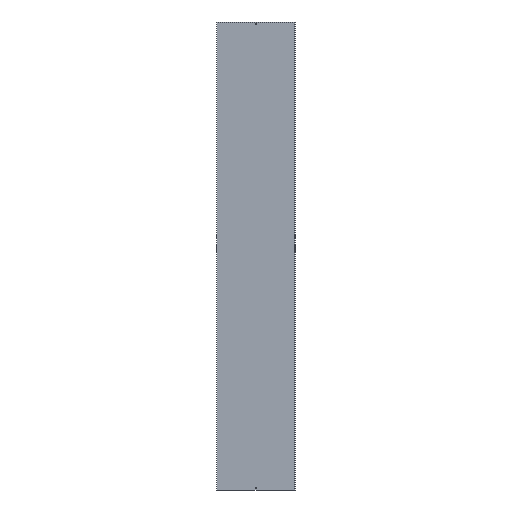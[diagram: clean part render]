
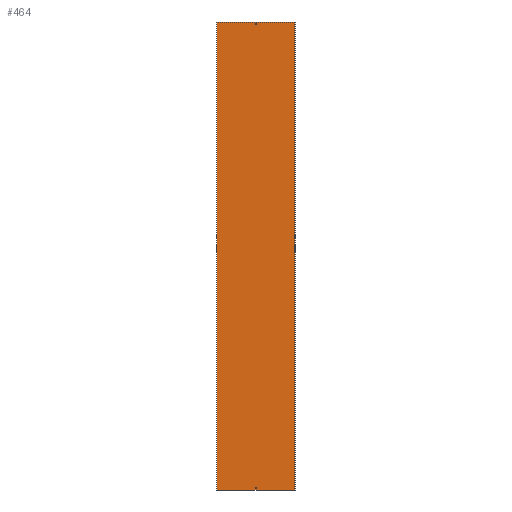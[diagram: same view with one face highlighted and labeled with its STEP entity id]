
A CAD part, front view. The second image highlights one B-rep face of the part: STEP entity #464.
In plain terms, the highlighted planar face has unit normal (0, -1, 0).
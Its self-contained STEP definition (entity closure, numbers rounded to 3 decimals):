
#4 = LINE ( 'NONE', #470, #501 ) ;
#9 = VERTEX_POINT ( 'NONE', #270 ) ;
#14 = LINE ( 'NONE', #285, #82 ) ;
#19 = LINE ( 'NONE', #309, #579 ) ;
#20 = ORIENTED_EDGE ( 'NONE', *, *, #395, .T. ) ;
#21 = DIRECTION ( 'NONE',  ( 0., 0., -1. ) ) ;
#22 = CARTESIAN_POINT ( 'NONE',  ( -251., -1., -1500. ) ) ;
#24 = VECTOR ( 'NONE', #77, 1000. ) ;
#28 = CARTESIAN_POINT ( 'NONE',  ( 250., -1., 1500. ) ) ;
#29 = VERTEX_POINT ( 'NONE', #447 ) ;
#48 = CARTESIAN_POINT ( 'NONE',  ( -251., -1., -1481.5 ) ) ;
#51 = DIRECTION ( 'NONE',  ( 0., 0., -1. ) ) ;
#52 = ORIENTED_EDGE ( 'NONE', *, *, #401, .F. ) ;
#63 = VECTOR ( 'NONE', #458, 1000. ) ;
#64 = VERTEX_POINT ( 'NONE', #275 ) ;
#71 = EDGE_CURVE ( 'NONE', #75, #119, #494, .T. ) ;
#72 = ORIENTED_EDGE ( 'NONE', *, *, #258, .F. ) ;
#73 = ORIENTED_EDGE ( 'NONE', *, *, #584, .T. ) ;
#75 = VERTEX_POINT ( 'NONE', #399 ) ;
#77 = DIRECTION ( 'NONE',  ( 0., 0., 1. ) ) ;
#82 = VECTOR ( 'NONE', #51, 1000. ) ;
#99 = EDGE_CURVE ( 'NONE', #330, #9, #14, .T. ) ;
#101 = DIRECTION ( 'NONE',  ( 0., 0., -1. ) ) ;
#115 = ORIENTED_EDGE ( 'NONE', *, *, #347, .T. ) ;
#119 = VERTEX_POINT ( 'NONE', #238 ) ;
#130 = VECTOR ( 'NONE', #283, 1000. ) ;
#138 = AXIS2_PLACEMENT_3D ( 'NONE', #157, #201, #101 ) ;
#142 = ORIENTED_EDGE ( 'NONE', *, *, #573, .T. ) ;
#144 = LINE ( 'NONE', #231, #403 ) ;
#149 = DIRECTION ( 'NONE',  ( 0., 0., -1. ) ) ;
#154 = DIRECTION ( 'NONE',  ( -1., 0., 0. ) ) ;
#157 = CARTESIAN_POINT ( 'NONE',  ( -251., -1., 1500. ) ) ;
#162 = CARTESIAN_POINT ( 'NONE',  ( 250., -1., -1500. ) ) ;
#164 = EDGE_CURVE ( 'NONE', #533, #254, #4, .T. ) ;
#168 = LINE ( 'NONE', #22, #450 ) ;
#201 = DIRECTION ( 'NONE',  ( 0., -1., 0. ) ) ;
#205 = LINE ( 'NONE', #427, #390 ) ;
#206 = DIRECTION ( 'NONE',  ( -1., 0., 0. ) ) ;
#208 = CARTESIAN_POINT ( 'NONE',  ( 250., -1., 1500. ) ) ;
#218 = EDGE_CURVE ( 'NONE', #346, #533, #144, .T. ) ;
#220 = EDGE_LOOP ( 'NONE', ( #577, #387, #72, #52 ) ) ;
#222 = CARTESIAN_POINT ( 'NONE',  ( 3., -1., 1500. ) ) ;
#231 = CARTESIAN_POINT ( 'NONE',  ( -251., -1., 1488.5 ) ) ;
#236 = ORIENTED_EDGE ( 'NONE', *, *, #99, .T. ) ;
#238 = CARTESIAN_POINT ( 'NONE',  ( 3., -1., -1488.5 ) ) ;
#247 = DIRECTION ( 'NONE',  ( 0., 0., 1. ) ) ;
#249 = LINE ( 'NONE', #208, #548 ) ;
#250 = CARTESIAN_POINT ( 'NONE',  ( -250., -1., 1500. ) ) ;
#254 = VERTEX_POINT ( 'NONE', #383 ) ;
#258 = EDGE_CURVE ( 'NONE', #29, #346, #19, .T. ) ;
#270 = CARTESIAN_POINT ( 'NONE',  ( -250., -1., -1500. ) ) ;
#275 = CARTESIAN_POINT ( 'NONE',  ( -3., -1., -1488.5 ) ) ;
#283 = DIRECTION ( 'NONE',  ( -1., 0., 0. ) ) ;
#285 = CARTESIAN_POINT ( 'NONE',  ( -250., -1., 1500. ) ) ;
#286 = VERTEX_POINT ( 'NONE', #28 ) ;
#288 = EDGE_CURVE ( 'NONE', #508, #9, #168, .T. ) ;
#295 = PLANE ( 'NONE',  #138 ) ;
#302 = VERTEX_POINT ( 'NONE', #354 ) ;
#309 = CARTESIAN_POINT ( 'NONE',  ( 3., -1., 1500. ) ) ;
#315 = DIRECTION ( 'NONE',  ( 0., 0., -1. ) ) ;
#316 = VECTOR ( 'NONE', #590, 1000. ) ;
#318 = CARTESIAN_POINT ( 'NONE',  ( -251., -1., 1481.5 ) ) ;
#323 = VECTOR ( 'NONE', #315, 1000. ) ;
#330 = VERTEX_POINT ( 'NONE', #250 ) ;
#331 = LINE ( 'NONE', #318, #316 ) ;
#332 = DIRECTION ( 'NONE',  ( -1., 0., 0. ) ) ;
#339 = FACE_OUTER_BOUND ( 'NONE', #342, .T. ) ;
#342 = EDGE_LOOP ( 'NONE', ( #485, #530, #142, #236 ) ) ;
#346 = VERTEX_POINT ( 'NONE', #391 ) ;
#347 = EDGE_CURVE ( 'NONE', #64, #302, #571, .T. ) ;
#348 = CARTESIAN_POINT ( 'NONE',  ( -3., -1., 1500. ) ) ;
#354 = CARTESIAN_POINT ( 'NONE',  ( -3., -1., -1481.5 ) ) ;
#362 = ORIENTED_EDGE ( 'NONE', *, *, #71, .T. ) ;
#383 = CARTESIAN_POINT ( 'NONE',  ( -3., -1., 1481.5 ) ) ;
#387 = ORIENTED_EDGE ( 'NONE', *, *, #218, .F. ) ;
#390 = VECTOR ( 'NONE', #154, 1000. ) ;
#391 = CARTESIAN_POINT ( 'NONE',  ( 3., -1., 1488.5 ) ) ;
#395 = EDGE_CURVE ( 'NONE', #302, #75, #405, .T. ) ;
#399 = CARTESIAN_POINT ( 'NONE',  ( 3., -1., -1481.5 ) ) ;
#401 = EDGE_CURVE ( 'NONE', #254, #29, #331, .T. ) ;
#403 = VECTOR ( 'NONE', #332, 1000. ) ;
#405 = LINE ( 'NONE', #48, #63 ) ;
#420 = CARTESIAN_POINT ( 'NONE',  ( -251., -1., -1488.5 ) ) ;
#427 = CARTESIAN_POINT ( 'NONE',  ( -251., -1., 1500. ) ) ;
#431 = LINE ( 'NONE', #420, #130 ) ;
#447 = CARTESIAN_POINT ( 'NONE',  ( 3., -1., 1481.5 ) ) ;
#450 = VECTOR ( 'NONE', #206, 1000. ) ;
#458 = DIRECTION ( 'NONE',  ( 1., 0., 0. ) ) ;
#462 = FACE_BOUND ( 'NONE', #220, .T. ) ;
#464 = ADVANCED_FACE ( 'NONE', ( #462, #339, #478 ), #295, .T. ) ;
#470 = CARTESIAN_POINT ( 'NONE',  ( -3., -1., 1500. ) ) ;
#478 = FACE_BOUND ( 'NONE', #589, .T. ) ;
#485 = ORIENTED_EDGE ( 'NONE', *, *, #288, .F. ) ;
#494 = LINE ( 'NONE', #222, #323 ) ;
#501 = VECTOR ( 'NONE', #149, 1000. ) ;
#508 = VERTEX_POINT ( 'NONE', #162 ) ;
#530 = ORIENTED_EDGE ( 'NONE', *, *, #555, .F. ) ;
#533 = VERTEX_POINT ( 'NONE', #565 ) ;
#548 = VECTOR ( 'NONE', #21, 1000. ) ;
#555 = EDGE_CURVE ( 'NONE', #286, #508, #249, .T. ) ;
#565 = CARTESIAN_POINT ( 'NONE',  ( -3., -1., 1488.5 ) ) ;
#571 = LINE ( 'NONE', #348, #24 ) ;
#573 = EDGE_CURVE ( 'NONE', #286, #330, #205, .T. ) ;
#577 = ORIENTED_EDGE ( 'NONE', *, *, #164, .F. ) ;
#579 = VECTOR ( 'NONE', #247, 1000. ) ;
#584 = EDGE_CURVE ( 'NONE', #119, #64, #431, .T. ) ;
#589 = EDGE_LOOP ( 'NONE', ( #73, #115, #20, #362 ) ) ;
#590 = DIRECTION ( 'NONE',  ( 1., 0., 0. ) ) ;
